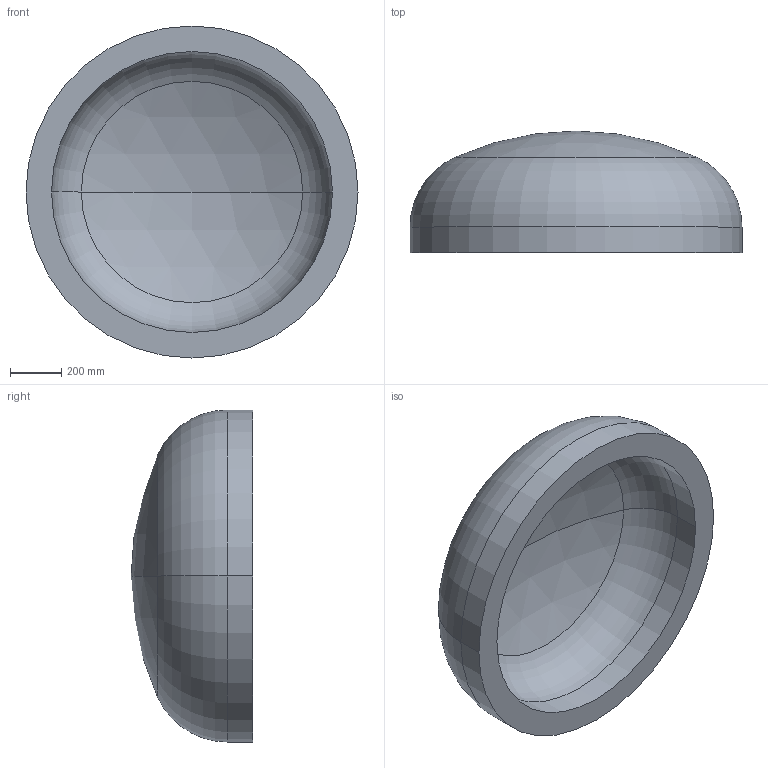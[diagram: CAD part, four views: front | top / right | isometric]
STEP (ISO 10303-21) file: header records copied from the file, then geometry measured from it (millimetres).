
FILE_DESCRIPTION (( 'STEP AP203' ), '1' );
FILE_NAME ('DIN 28013 Korbbogenform_-_Boden DIN 28013 - 1300 x 100 - I - s=100.step', '2016-07-01T10:01:57', ( '' ), ( '' ), 'SwSTEP 2.0', 'SolidWorks 2013', '' );
FILE_SCHEMA (( 'CONFIG_CONTROL_DESIGN' ));
Length unit declared in the file: millimetre
Products named in the file (1): DIN 28013 Korbbogenform_-_Boden DIN 28013 - 1300 x 100 - I - s=100
Bounding box: 1300 x 476.39 x 1300 mm (x, y, z)
Volume: 204539919.5 mm3; surface area: 4488732.6 mm2
Topology: 1 solids, 1 shells, 13 faces, 24 edges, 14 vertices
Faces by surface type: torus 4, cylinder 4, sphere 4, plane 1
Entity records: 407 total; most frequent: DIRECTION 72, CARTESIAN_POINT 52, ORIENTED_EDGE 48, AXIS2_PLACEMENT_3D 34, EDGE_CURVE 24, CIRCLE 20, EDGE_LOOP 14, VERTEX_POINT 14
